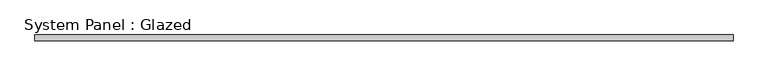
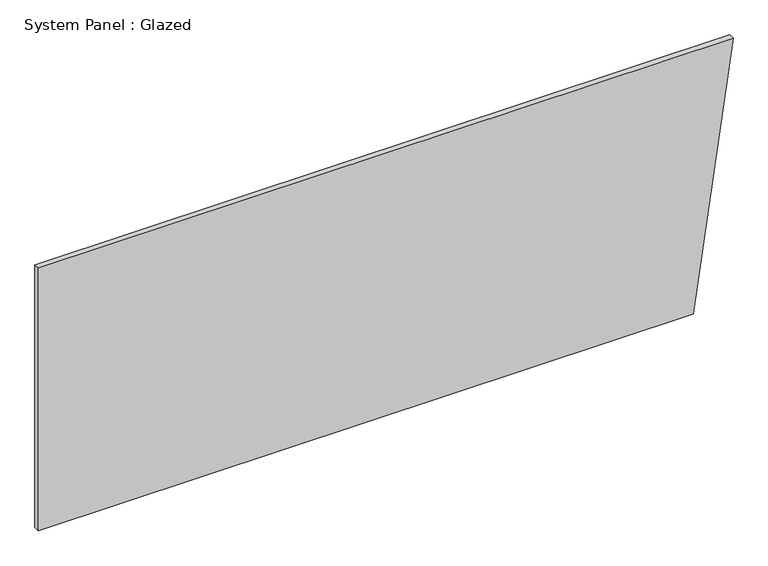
"""IFC4 building model written with IfcOpenShell, lengths in millimetres: plate geometry, System Panel : Glazed."""

from ifc_helpers import new_model, si_unit, frame, origin, place, context, project, spatial, polyline, outline, extrude, source, transform, mapped, element, save


def system_panel_glazed_c9496a02(model_context):
    return source(origin(), model_context, "Body", "SweptSolid", [
        extrude(outline(polyline([(0.0, -1523.9999998), (0.0, 1348.5755394), (1219.2, 1523.9999998), (1219.2, -1523.9999998), (0.0, -1523.9999998)])), frame((0.0, 19.05, 0.0), z_axis=(0.0, 1.0, 0.0), x_axis=(0.0, 0.0, 1.0)), (0.0, 0.0, 1.0), 25.4),
    ])


if __name__ == "__main__":
    model = new_model("IFC4")
    model_context = context("Model", 3, world=origin())
    ifc_project = project(units=[si_unit("LENGTHUNIT", "METRE", prefix="MILLI")], contexts=[model_context])
    site = spatial("IfcSite", under=ifc_project)
    building = spatial("IfcBuilding", under=site)
    placement = place(None, origin())
    system_panel_glazed_shape = system_panel_glazed_c9496a02(model_context)
    element("IfcPlate", 1, ObjectType="System Panel : Glazed", at=placement, inside=building, context=model_context, shape_type="MappedRepresentation", body=[
        mapped(system_panel_glazed_shape, transform((0.0, 0.0, 0.0), x_axis=(1.0, 0.0, 0.0), y_axis=(0.0, 1.0, 0.0), z_axis=(0.0, 0.0, 1.0))),
    ])
    save(model, "model.ifc")
